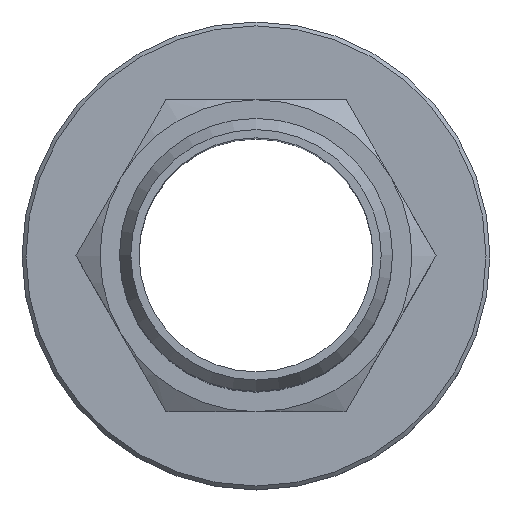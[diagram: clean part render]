
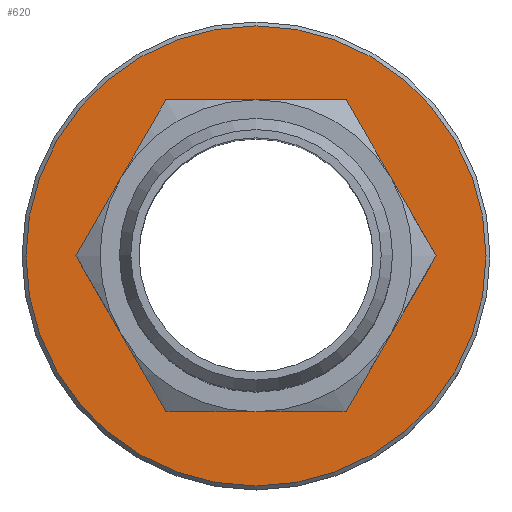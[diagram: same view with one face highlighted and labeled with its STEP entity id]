
A CAD part, top view. The second image highlights one B-rep face of the part: STEP entity #620.
In plain terms, the highlighted planar face has unit normal (0, 0, 1).
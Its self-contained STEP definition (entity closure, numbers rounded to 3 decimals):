
#620=ADVANCED_FACE('', (#630,#640), #650, .T.);
#2880=AXIS2_PLACEMENT_3D('Ax2Pl3d', #2890, #2900, #2910);
#2920=AXIS2_PLACEMENT_3D('Ax2Pl3d', #2930, #2940, #2950);
#6170=CARTESIAN_POINT('', (13.213,14.317,21.873));
#6180=CARTESIAN_POINT('', (17.831,22.317,21.873));
#6190=CARTESIAN_POINT('', (13.213,14.317,21.873));
#6270=CARTESIAN_POINT('', (17.831,22.317,21.873));
#6280=CARTESIAN_POINT('', (27.069,22.317,21.873));
#6320=CARTESIAN_POINT('', (27.069,22.317,21.873));
#6330=CARTESIAN_POINT('', (31.688,14.317,21.873));
#6370=CARTESIAN_POINT('', (31.688,14.317,21.873));
#6380=CARTESIAN_POINT('', (27.069,6.317,21.873));
#6420=CARTESIAN_POINT('', (27.069,6.317,21.873));
#6430=CARTESIAN_POINT('', (17.831,6.317,21.873));
#6460=CARTESIAN_POINT('', (17.831,6.317,21.873));
#2890=CARTESIAN_POINT('HicPkt', (34.25,14.317,
21.873));
#2930=CARTESIAN_POINT('HicPkt', (22.45,14.317,
21.873));
#6470=CARTESIAN_POINT('', (22.45,2.517,21.873));
#6850=CIRCLE('Circle', #2920, 11.8);
#9090=DIRECTION('', (-0.5,-0.866,0.));
#9120=DIRECTION('', (-1.,0.,0.));
#9140=DIRECTION('', (-0.5,0.866,0.));
#9160=DIRECTION('', (0.5,0.866,0.));
#9180=DIRECTION('', (1.,0.,0.));
#9200=DIRECTION('', (0.5,-0.866,0.));
#2900=DIRECTION('Axis', (0.,0.,1.));
#2910=DIRECTION('RefDirection', (1.,0.,-0.));
#2940=DIRECTION('Axis', (0.,0.,-1.));
#2950=DIRECTION('RefDirection', (-1.,-0.,0.));
#9290=EDGE_CURVE('', #9300, #9310, #9320, .T.);
#9480=EDGE_CURVE('', #9490, #9300, #9500, .T.);
#9580=EDGE_CURVE('', #9590, #9490, #9600, .T.);
#9680=EDGE_CURVE('', #9690, #9590, #9700, .T.);
#9780=EDGE_CURVE('', #9790, #9690, #9800, .T.);
#9870=EDGE_CURVE('', #9310, #9790, #9880, .T.);
#9890=EDGE_CURVE('', #9900, #9900, #6850, .T.);
#11210=EDGE_LOOP('Edge_loop', (#11220));
#11230=EDGE_LOOP('Edge_loop', (#11240,#11250,#11260,#11270,#11280,
#11290));
#640=FACE_BOUND('', #11230, .T.);
#630=FACE_OUTER_BOUND('Face_outer_bound', #11210, .T.);
#9320=LINE('Line', #6170, #12970);
#9500=LINE('Line', #6270, #13000);
#9600=LINE('Line', #6320, #13020);
#9700=LINE('Line', #6370, #13040);
#9800=LINE('Line', #6420, #13060);
#9880=LINE('Line', #6460, #13080);
#11220=ORIENTED_EDGE('', *, *, #9890, .F.);
#11240=ORIENTED_EDGE('', *, *, #9290, .F.);
#11250=ORIENTED_EDGE('', *, *, #9480, .F.);
#11260=ORIENTED_EDGE('', *, *, #9580, .F.);
#11270=ORIENTED_EDGE('', *, *, #9680, .F.);
#11280=ORIENTED_EDGE('', *, *, #9780, .F.);
#11290=ORIENTED_EDGE('', *, *, #9870, .F.);
#650=PLANE('Plane', #2880);
#12970=VECTOR('', #9090, 9.238);
#13000=VECTOR('', #9120, 9.238);
#13020=VECTOR('', #9140, 9.238);
#13040=VECTOR('', #9160, 9.238);
#13060=VECTOR('', #9180, 9.238);
#13080=VECTOR('', #9200, 9.238);
#9300=VERTEX_POINT('', #6180);
#9310=VERTEX_POINT('', #6190);
#9490=VERTEX_POINT('', #6280);
#9590=VERTEX_POINT('', #6330);
#9690=VERTEX_POINT('', #6380);
#9790=VERTEX_POINT('', #6430);
#9900=VERTEX_POINT('', #6470);
